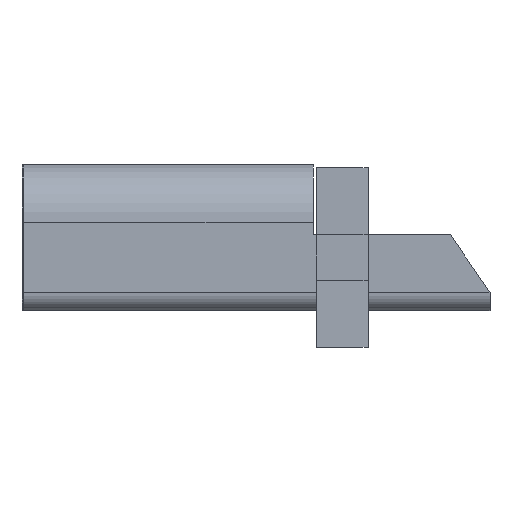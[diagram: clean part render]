
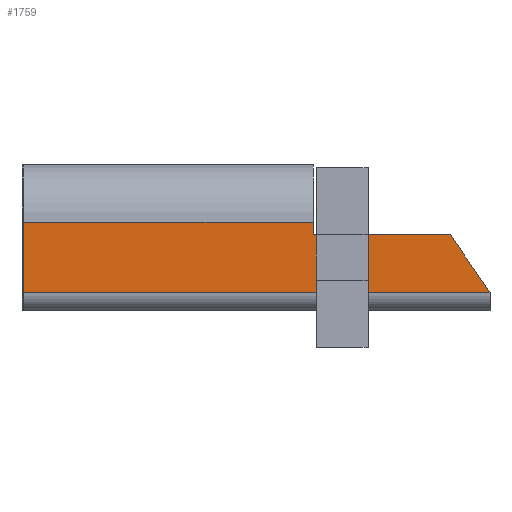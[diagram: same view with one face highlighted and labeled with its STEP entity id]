
A CAD part, left-side view. The second image highlights one B-rep face of the part: STEP entity #1759.
In plain terms, the highlighted planar face has unit normal (-1, 0, 0).
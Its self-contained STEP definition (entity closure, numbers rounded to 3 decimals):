
#151=FACE_OUTER_BOUND('',#253,.T.);
#253=EDGE_LOOP('',(#1283,#1284,#1285,#1286,#1287,#1288));
#392=LINE('',#2749,#592);
#393=LINE('',#2752,#593);
#394=LINE('',#2754,#594);
#395=LINE('',#2756,#595);
#396=LINE('',#2758,#596);
#397=LINE('',#2759,#597);
#592=VECTOR('',#2219,1000.);
#593=VECTOR('',#2222,1000.);
#594=VECTOR('',#2223,1000.);
#595=VECTOR('',#2224,1000.);
#596=VECTOR('',#2225,1000.);
#597=VECTOR('',#2226,1000.);
#780=VERTEX_POINT('',#2743);
#782=VERTEX_POINT('',#2747);
#783=VERTEX_POINT('',#2751);
#784=VERTEX_POINT('',#2753);
#785=VERTEX_POINT('',#2755);
#786=VERTEX_POINT('',#2757);
#968=EDGE_CURVE('',#782,#780,#392,.T.);
#969=EDGE_CURVE('',#780,#783,#393,.T.);
#970=EDGE_CURVE('',#784,#782,#394,.T.);
#971=EDGE_CURVE('',#784,#785,#395,.T.);
#972=EDGE_CURVE('',#786,#785,#396,.T.);
#973=EDGE_CURVE('',#786,#783,#397,.T.);
#1283=ORIENTED_EDGE('',*,*,#969,.F.);
#1284=ORIENTED_EDGE('',*,*,#968,.F.);
#1285=ORIENTED_EDGE('',*,*,#970,.F.);
#1286=ORIENTED_EDGE('',*,*,#971,.T.);
#1287=ORIENTED_EDGE('',*,*,#972,.F.);
#1288=ORIENTED_EDGE('',*,*,#973,.T.);
#1681=PLANE('',#1950);
#1759=ADVANCED_FACE('',(#151),#1681,.F.);
#1950=AXIS2_PLACEMENT_3D('',#2750,#2220,#2221);
#2219=DIRECTION('',(0.,-1.,0.));
#2220=DIRECTION('center_axis',(1.,0.,0.));
#2221=DIRECTION('ref_axis',(0.,0.,1.));
#2222=DIRECTION('',(0.,-0.565,-0.825));
#2223=DIRECTION('',(0.,0.,-1.));
#2224=DIRECTION('',(0.,1.,0.));
#2225=DIRECTION('',(0.,0.,1.));
#2226=DIRECTION('',(0.,-1.,0.));
#2743=CARTESIAN_POINT('',(-5.,1.3,2.));
#2747=CARTESIAN_POINT('',(-5.,5.8,2.));
#2749=CARTESIAN_POINT('',(-5.,0.,2.));
#2750=CARTESIAN_POINT('Origin',(-5.,0.,0.));
#2751=CARTESIAN_POINT('',(-5.,0.,0.1));
#2752=CARTESIAN_POINT('',(-5.,1.3,2.));
#2753=CARTESIAN_POINT('',(-5.,5.8,2.4));
#2754=CARTESIAN_POINT('',(-5.,5.8,2.4));
#2755=CARTESIAN_POINT('',(-5.,15.3,2.4));
#2756=CARTESIAN_POINT('',(-5.,15.3,2.4));
#2757=CARTESIAN_POINT('',(-5.,15.3,0.1));
#2758=CARTESIAN_POINT('',(-5.,15.3,0.));
#2759=CARTESIAN_POINT('',(-5.,0.,0.1));
